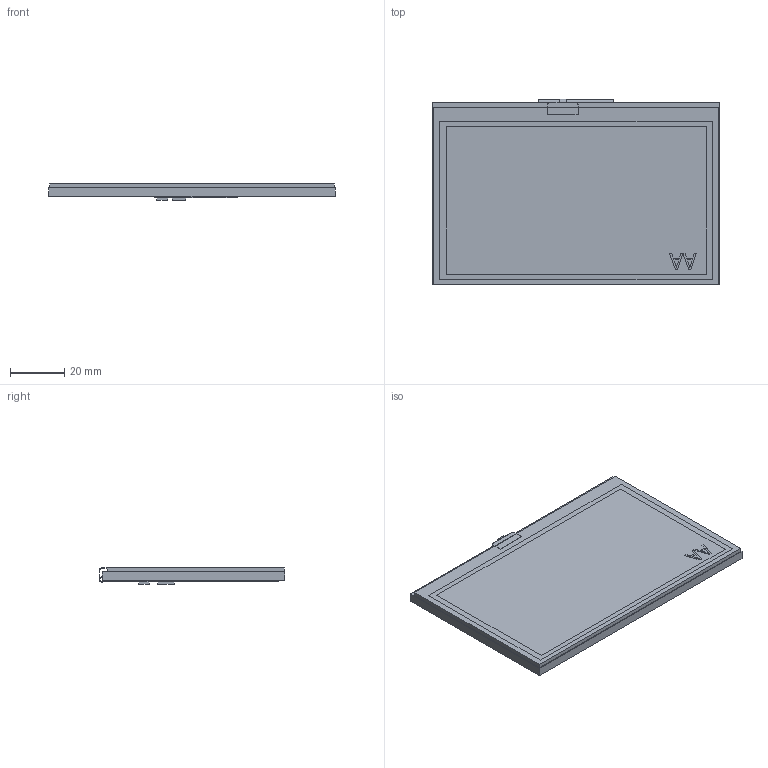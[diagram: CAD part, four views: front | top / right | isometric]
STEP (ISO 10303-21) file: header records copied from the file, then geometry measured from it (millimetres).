
FILE_DESCRIPTION(/* description */ (''),/* implementation_level */ '2;1');
FILE_NAME(/* name */ 'SDWb043T64T_stp.stp',/* time_stamp */ '2024-05-18T16:02:41+08:00',/* author */ (''),/* organization */ (''),/* preprocessor_version */ 'ST-DEVELOPER v16',/* originating_system */ 'SIEMENS PLM Software NX 10.0',/* authorisation */ '');
FILE_SCHEMA (('AP203_CONFIGURATION_CONTROLLED_3D_DESIGN_OF_MECHANICAL_PARTS_AND_ASSEMBLIES_MIM_LF { 1 0 10303 403 2 1 2}'));
Length unit declared in the file: millimetre
Products named in the file (1): SDWb043T64T_stp
Bounding box: 105.42 x 68.26 x 6.2 mm (x, y, z)
Volume: 32659.1 mm3; surface area: 46519.2 mm2
Topology: 32 solids, 32 shells, 238 faces, 513 edges, 342 vertices
Faces by surface type: plane 223, cylinder 10, extrusion 5
Entity records: 8262 total; most frequent: CARTESIAN_POINT 1265, ORIENTED_EDGE 1026, DIRECTION 994, EDGE_CURVE 513, VECTOR 486, LINE 481, VERTEX_POINT 342, AXIS2_PLACEMENT_3D 254
